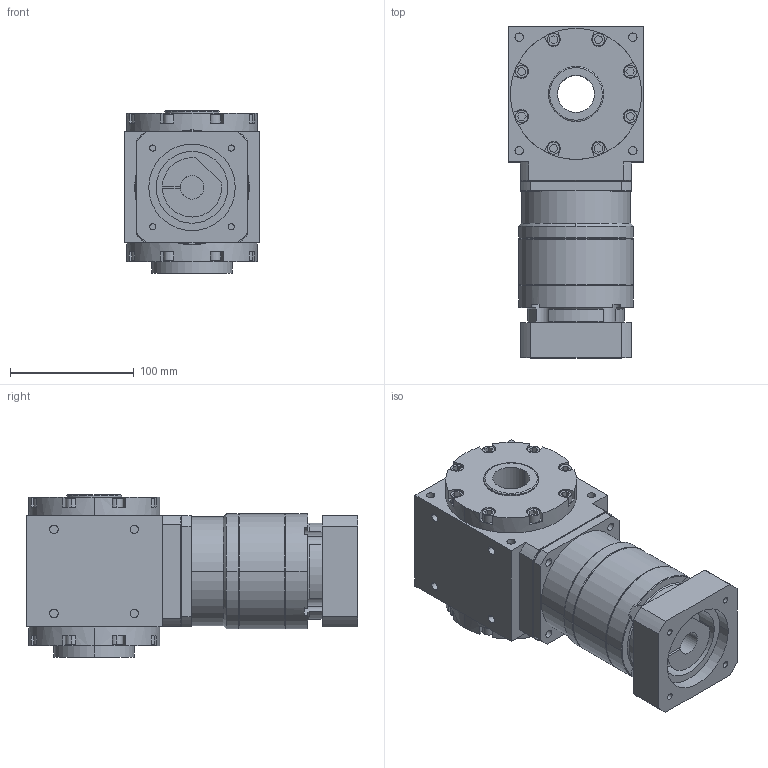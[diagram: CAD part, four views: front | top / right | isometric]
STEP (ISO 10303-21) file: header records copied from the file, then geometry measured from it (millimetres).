
FILE_DESCRIPTION (( 'STEP AP203' ), '1' );
FILE_NAME ('AAW110AS-L2-RF 19-70-90-M6.STEP', '2024-12-24T05:29:36', ( '' ), ( '' ), 'SwSTEP 2.0', 'SolidWorks 2021', '' );
FILE_SCHEMA (( 'CONFIG_CONTROL_DESIGN' ));
Length unit declared in the file: millimetre
Products named in the file (3): AAW110AS-L2-RF 19-70-90-M6; AAW110AS-RF; VRB-090-L2-S2-P1 19-70-90-M6
Assembly tree (2 placements, depth 2):
  AAW110AS-L2-RF 19-70-90-M6
    AAW110AS-RF
    VRB-090-L2-S2-P1 19-70-90-M6
Bounding box: 110 x 268.5 x 131.5 mm (x, y, z)
Volume: 2298747.5 mm3; surface area: 185165.7 mm2
Topology: 2 solids, 2 shells, 489 faces, 1190 edges, 781 vertices
Faces by surface type: plane 260, cylinder 188, cone 39, bspline 2
Entity records: 14822 total; most frequent: CARTESIAN_POINT 2621, DIRECTION 2599, ORIENTED_EDGE 2380, EDGE_CURVE 1190, AXIS2_PLACEMENT_3D 959, VERTEX_POINT 781, LINE 681, VECTOR 681
